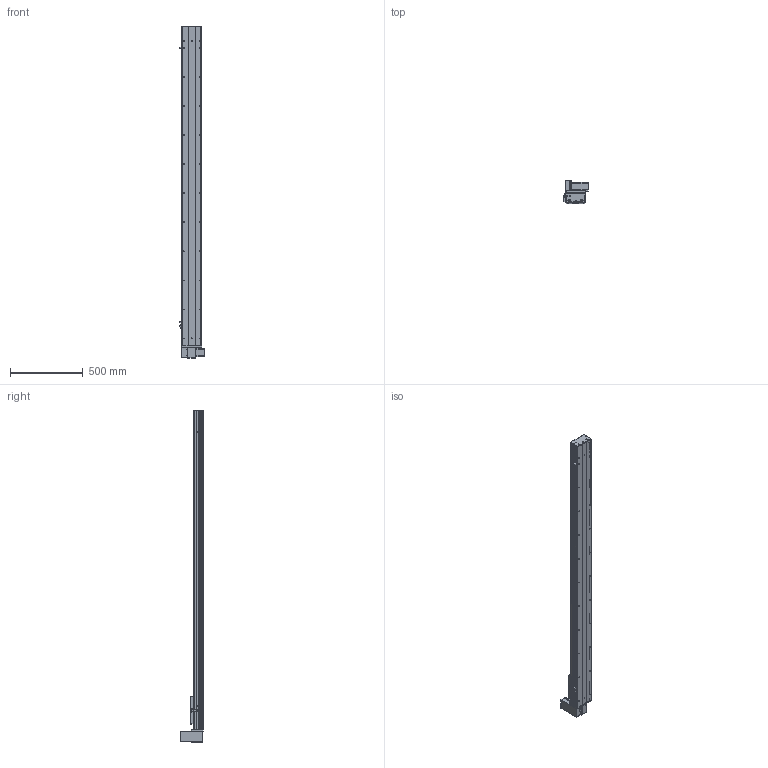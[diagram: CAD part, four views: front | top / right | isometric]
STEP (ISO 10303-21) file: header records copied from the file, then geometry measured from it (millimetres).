
FILE_DESCRIPTION (( 'STEP AP203' ), '1' );
FILE_NAME ('Y135CB-D90-S1900-UR-P400W.STEP', '2020-02-18T04:25:49', ( '微软用户' ), ( '微软中国' ), 'SwSTEP 2.0', 'SolidWorks 2017', '' );
FILE_SCHEMA (( 'CONFIG_CONTROL_DESIGN' ));
Length unit declared in the file: millimetre
Products named in the file (18): Y135C-陔俋离換覜結え-; 0B-埴倛裔啣; 5C--俋欶; 0B-源倛裔啣; C-雄赽釱--; 0B-萇儂楊擘啣; Y10B--々湍喘謫眊--666; san松下电机400不带刹车----; Y10B-耜蚾蟀諉啣----; Y135CB-耜裔; 5CB --掛极耜裔啣-; 00B-俋欶BM--; C-詩湍揤踡え-陔; Y135CB-D90-S1900-UR-P400W; 135CB--詩湍-CE; 135CB---遴掛极.-; Y100-135俋离換覜ん--; 35CB---喘謫眊楊擘啣
Assembly tree (21 placements, depth 2):
  Y135CB-D90-S1900-UR-P400W
    Y135CB-耜裔
    135CB---遴掛极.-
    35CB---喘謫眊楊擘啣
    0B-埴倛裔啣
    0B-源倛裔啣
    0B-萇儂楊擘啣
    san松下电机400不带刹车----
    5CB --掛极耜裔啣-  x2
    C-詩湍揤踡え-陔  x2
    135CB--詩湍-CE
    Y100-135俋离換覜ん--  x3
    Y135C-陔俋离換覜結え-
    5C--俋欶
    C-雄赽釱--
    Y10B--々湍喘謫眊--666
    Y10B-耜蚾蟀諉啣----
    00B-俋欶BM--
Bounding box: 167.5 x 158.7 x 2288 mm (x, y, z)
Volume: 6723558.9 mm3; surface area: 2654541.8 mm2
Topology: 21 solids, 21 shells, 965 faces, 2617 edges, 1734 vertices
Faces by surface type: cylinder 493, plane 456, cone 16
Entity records: 30359 total; most frequent: DIRECTION 5045, CARTESIAN_POINT 5032, ORIENTED_EDGE 4710, EDGE_CURVE 2355, AXIS2_PLACEMENT_3D 1847, VERTEX_POINT 1562, VECTOR 1351, LINE 1351
